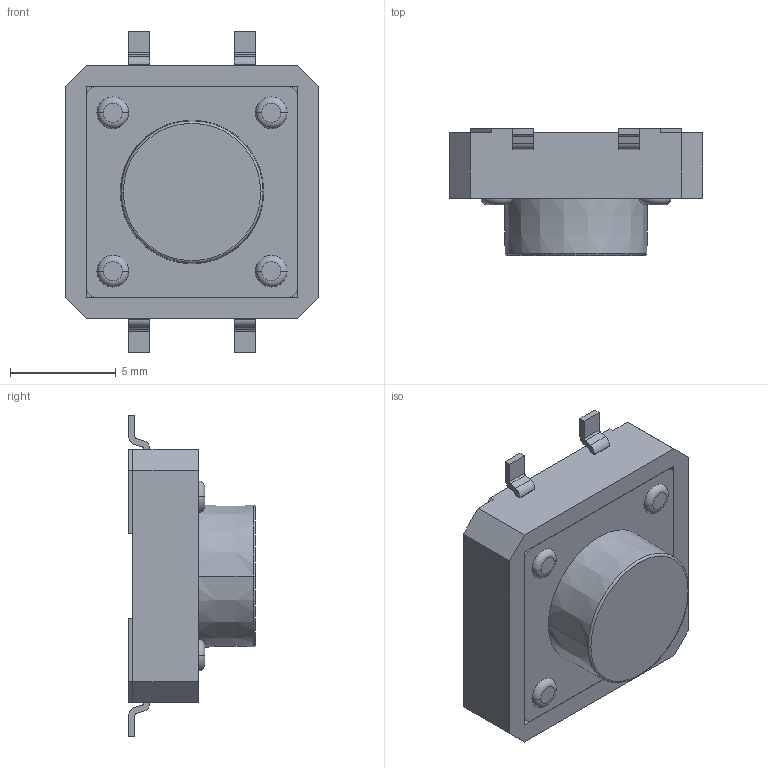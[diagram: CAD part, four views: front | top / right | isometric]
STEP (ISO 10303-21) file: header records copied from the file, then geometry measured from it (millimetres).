
FILE_DESCRIPTION((''),'2;1');
FILE_NAME('JQA1212-C0601-01G-1-104_ASM','2026-05-13T16:27:43',('Admin'),(''),'CREO PARAMETRIC BY PTC INC, 2019224','CREO PARAMETRIC BY PTC INC, 2019224','');
FILE_SCHEMA(('AUTOMOTIVE_DESIGN { 1 0 10303 214 1 1 1 1 }'));
Length unit declared in the file: millimetre
Products named in the file (3): JQA1212-C0601-01G-1-104_01; JQA1212-C0601-01G-1-104_02; JQA1212-C0601-01G-1-104_ASM
Assembly tree (2 placements, depth 2):
  JQA1212-C0601-01G-1-104_ASM
    JQA1212-C0601-01G-1-104_01
    JQA1212-C0601-01G-1-104_02
Bounding box: 12 x 6 x 15.2 mm (x, y, z)
Volume: 541.7 mm3; surface area: 748.3 mm2
Topology: 3 solids, 3 shells, 137 faces, 362 edges, 254 vertices
Faces by surface type: plane 87, cylinder 38, torus 10, cone 2
Entity records: 5916 total; most frequent: DIRECTION 766, CARTESIAN_POINT 751, ORIENTED_EDGE 704, PRESENTATION_STYLE_ASSIGNMENT 356, EDGE_CURVE 352, STYLED_ITEM 313, CURVE_STYLE 311, AXIS2_PLACEMENT_3D 256
